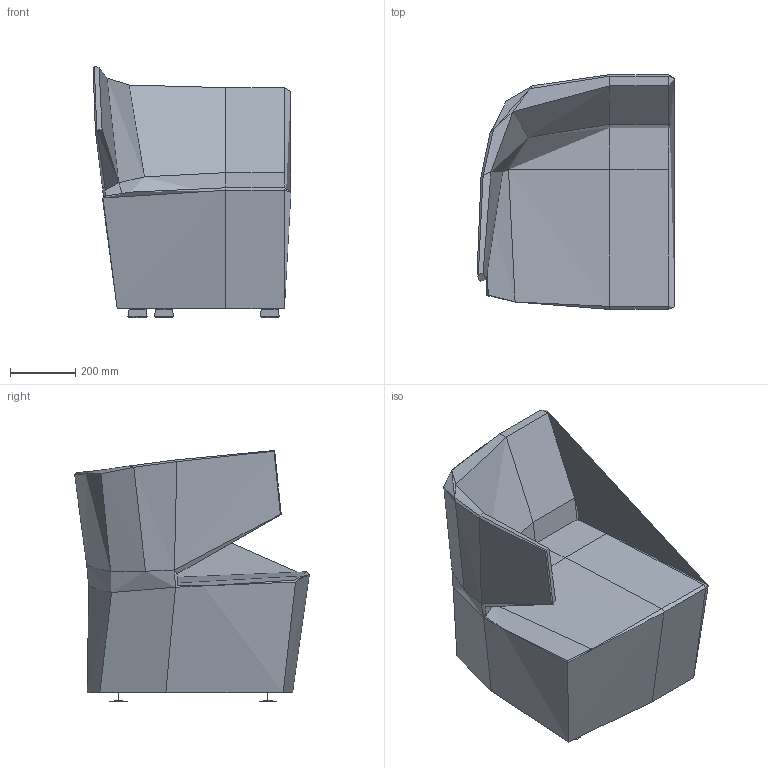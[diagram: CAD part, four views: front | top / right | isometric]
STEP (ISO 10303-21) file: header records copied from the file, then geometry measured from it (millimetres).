
FILE_DESCRIPTION(/* description */ (''),/* implementation_level */ '2;1');
FILE_NAME(/* name */ 'CLUBKR~1',/* time_stamp */ '2017-03-10T19:46:21+01:00',/* author */ (''),/* organization */ (''),/* preprocessor_version */ 'ST-DEVELOPER v15',/* originating_system */ '',/* authorisation */ '');
FILE_SCHEMA (('CONFIG_CONTROL_DESIGN'));
Length unit declared in the file: millimetre
Products named in the file (1): Document
Bounding box: 606.63 x 719.65 x 770.13 mm (x, y, z)
Surface area: 2251538.7 mm2 (no closed solid volume)
Topology: 0 solids, 6 shells, 70 faces, 169 edges, 102 vertices
Faces by surface type: bspline 66, plane 4
Entity records: 12220 total; most frequent: CARTESIAN_POINT 11269, ORIENTED_EDGE 286, EDGE_CURVE 163, VERTEX_POINT 99, ADVANCED_FACE 70, FACE_OUTER_BOUND 70, EDGE_LOOP 70, B_SPLINE_CURVE_WITH_KNOTS 47
